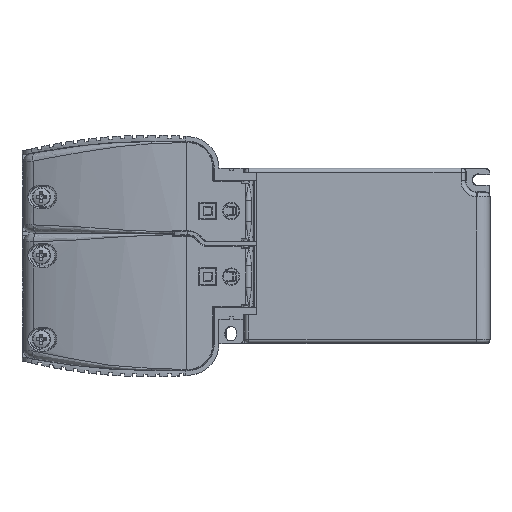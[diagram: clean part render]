
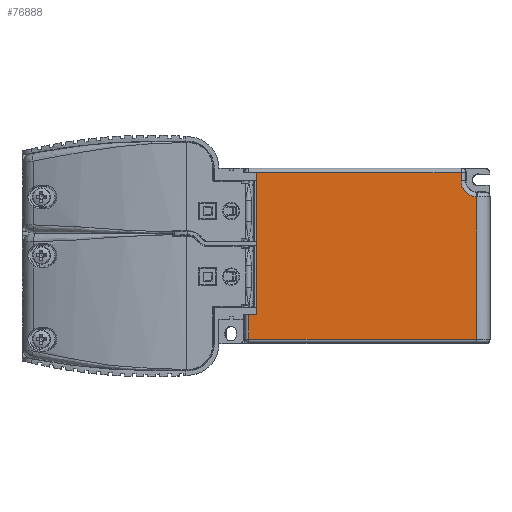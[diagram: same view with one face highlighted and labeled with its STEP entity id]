
A CAD part, top view. The second image highlights one B-rep face of the part: STEP entity #76888.
In plain terms, the highlighted planar face has unit normal (0, 0, 1).
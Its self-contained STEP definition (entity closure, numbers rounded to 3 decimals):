
#874 = VECTOR ( 'NONE', #65266, 1000. ) ;
#1381 = EDGE_CURVE ( 'NONE', #6405, #21162, #36452, .T. ) ;
#2243 = VERTEX_POINT ( 'NONE', #70490 ) ;
#2476 = CARTESIAN_POINT ( 'NONE',  ( -37.547, 31.7, 29.5 ) ) ;
#3176 = EDGE_CURVE ( 'NONE', #30075, #64217, #83836, .T. ) ;
#5804 = CARTESIAN_POINT ( 'NONE',  ( 40.408, 28.7, 29.5 ) ) ;
#5856 = CARTESIAN_POINT ( 'NONE',  ( -37.247, -22.4, 29.5 ) ) ;
#6405 = VERTEX_POINT ( 'NONE', #6788 ) ;
#6788 = CARTESIAN_POINT ( 'NONE',  ( -40.502, 31.755, 29.5 ) ) ;
#7821 = EDGE_LOOP ( 'NONE', ( #31327, #59319, #50772, #50449, #21536, #51547, #24923, #52799, #56250, #68248 ) ) ;
#9364 = AXIS2_PLACEMENT_3D ( 'NONE', #13353, #12950, #66907 ) ;
#11992 = EDGE_CURVE ( 'NONE', #14930, #21162, #55031, .T. ) ;
#12722 = CARTESIAN_POINT ( 'NONE',  ( 40.408, 33.341, 29.5 ) ) ;
#12950 = DIRECTION ( 'NONE',  ( 0., 0., 1. ) ) ;
#13001 = CARTESIAN_POINT ( 'NONE',  ( -37.547, -22.4, 29.5 ) ) ;
#13353 = CARTESIAN_POINT ( 'NONE',  ( 46.653, 28.7, 29.5 ) ) ;
#14416 = CARTESIAN_POINT ( 'NONE',  ( 46.337, -31.755, 29.5 ) ) ;
#14930 = VERTEX_POINT ( 'NONE', #2476 ) ;
#16306 = DIRECTION ( 'NONE',  ( 0., -1., 0. ) ) ;
#17846 = LINE ( 'NONE', #18281, #83226 ) ;
#18281 = CARTESIAN_POINT ( 'NONE',  ( -40.502, -33.341, 29.5 ) ) ;
#19269 = CARTESIAN_POINT ( 'NONE',  ( -40.502, -22.4, 29.5 ) ) ;
#20862 = DIRECTION ( 'NONE',  ( 1., 0., 0. ) ) ;
#21162 = VERTEX_POINT ( 'NONE', #41793 ) ;
#21536 = ORIENTED_EDGE ( 'NONE', *, *, #36724, .T. ) ;
#22059 = DIRECTION ( 'NONE',  ( -1., 0., 0. ) ) ;
#22478 = CARTESIAN_POINT ( 'NONE',  ( -37.247, 31.7, 29.5 ) ) ;
#24923 = ORIENTED_EDGE ( 'NONE', *, *, #29542, .T. ) ;
#26139 = VECTOR ( 'NONE', #63720, 1000. ) ;
#26507 = LINE ( 'NONE', #44955, #70380 ) ;
#27108 = EDGE_CURVE ( 'NONE', #54229, #6405, #26507, .T. ) ;
#27521 = PLANE ( 'NONE',  #9364 ) ;
#27820 = VERTEX_POINT ( 'NONE', #43916 ) ;
#28679 = CARTESIAN_POINT ( 'NONE',  ( 46.653, 28.7, 29.5 ) ) ;
#29542 = EDGE_CURVE ( 'NONE', #63988, #54229, #76173, .T. ) ;
#30075 = VERTEX_POINT ( 'NONE', #19269 ) ;
#31327 = ORIENTED_EDGE ( 'NONE', *, *, #47007, .T. ) ;
#31749 = CARTESIAN_POINT ( 'NONE',  ( -37.547, -22.4, 29.5 ) ) ;
#34270 = DIRECTION ( 'NONE',  ( 0., 0., -1. ) ) ;
#36452 = LINE ( 'NONE', #62977, #62969 ) ;
#36724 = EDGE_CURVE ( 'NONE', #2243, #50948, #80328, .T. ) ;
#38347 = AXIS2_PLACEMENT_3D ( 'NONE', #28679, #34270, #79247 ) ;
#40509 = CARTESIAN_POINT ( 'NONE',  ( 46.337, 24.041, 29.5 ) ) ;
#40690 = VECTOR ( 'NONE', #20862, 1000. ) ;
#41793 = CARTESIAN_POINT ( 'NONE',  ( -40.502, 31.7, 29.5 ) ) ;
#43916 = CARTESIAN_POINT ( 'NONE',  ( -40.502, -31.755, 29.5 ) ) ;
#44955 = CARTESIAN_POINT ( 'NONE',  ( -42.089, 31.755, 29.5 ) ) ;
#47007 = EDGE_CURVE ( 'NONE', #14930, #64217, #71706, .T. ) ;
#49754 = VECTOR ( 'NONE', #60183, 1000. ) ;
#50449 = ORIENTED_EDGE ( 'NONE', *, *, #51761, .T. ) ;
#50772 = ORIENTED_EDGE ( 'NONE', *, *, #67484, .T. ) ;
#50948 = VERTEX_POINT ( 'NONE', #66986 ) ;
#51547 = ORIENTED_EDGE ( 'NONE', *, *, #70639, .T. ) ;
#51761 = EDGE_CURVE ( 'NONE', #27820, #2243, #60687, .T. ) ;
#52799 = ORIENTED_EDGE ( 'NONE', *, *, #27108, .T. ) ;
#54229 = VERTEX_POINT ( 'NONE', #58974 ) ;
#55031 = LINE ( 'NONE', #22478, #62214 ) ;
#56250 = ORIENTED_EDGE ( 'NONE', *, *, #1381, .T. ) ;
#58974 = CARTESIAN_POINT ( 'NONE',  ( 40.408, 31.755, 29.5 ) ) ;
#59319 = ORIENTED_EDGE ( 'NONE', *, *, #3176, .F. ) ;
#60047 = FACE_OUTER_BOUND ( 'NONE', #7821, .T. ) ;
#60183 = DIRECTION ( 'NONE',  ( 0., 1., 0. ) ) ;
#60687 = LINE ( 'NONE', #14416, #40690 ) ;
#62214 = VECTOR ( 'NONE', #22059, 1000. ) ;
#62969 = VECTOR ( 'NONE', #16306, 1000. ) ;
#62977 = CARTESIAN_POINT ( 'NONE',  ( -40.502, 31.7, 29.5 ) ) ;
#63720 = DIRECTION ( 'NONE',  ( 0., 1., 0. ) ) ;
#63988 = VERTEX_POINT ( 'NONE', #5804 ) ;
#64217 = VERTEX_POINT ( 'NONE', #31749 ) ;
#65266 = DIRECTION ( 'NONE',  ( 0., -1., 0. ) ) ;
#66907 = DIRECTION ( 'NONE',  ( 0., -1., 0. ) ) ;
#66986 = CARTESIAN_POINT ( 'NONE',  ( 46.337, 22.463, 29.5 ) ) ;
#67484 = EDGE_CURVE ( 'NONE', #30075, #27820, #17846, .T. ) ;
#68248 = ORIENTED_EDGE ( 'NONE', *, *, #11992, .F. ) ;
#70380 = VECTOR ( 'NONE', #78765, 1000. ) ;
#70490 = CARTESIAN_POINT ( 'NONE',  ( 46.337, -31.755, 29.5 ) ) ;
#70639 = EDGE_CURVE ( 'NONE', #50948, #63988, #75293, .T. ) ;
#71706 = LINE ( 'NONE', #13001, #874 ) ;
#75293 = CIRCLE ( 'NONE', #38347, 6.245 ) ;
#76173 = LINE ( 'NONE', #12722, #26139 ) ;
#76572 = DIRECTION ( 'NONE',  ( 1., 0., 0. ) ) ;
#76888 = ADVANCED_FACE ( 'NONE', ( #60047 ), #27521, .T. ) ;
#78765 = DIRECTION ( 'NONE',  ( -1., 0., 0. ) ) ;
#79247 = DIRECTION ( 'NONE',  ( 0., -1., 0. ) ) ;
#80328 = LINE ( 'NONE', #40509, #49754 ) ;
#82955 = DIRECTION ( 'NONE',  ( 0., -1., 0. ) ) ;
#83226 = VECTOR ( 'NONE', #82955, 1000. ) ;
#83569 = VECTOR ( 'NONE', #76572, 1000. ) ;
#83836 = LINE ( 'NONE', #5856, #83569 ) ;
